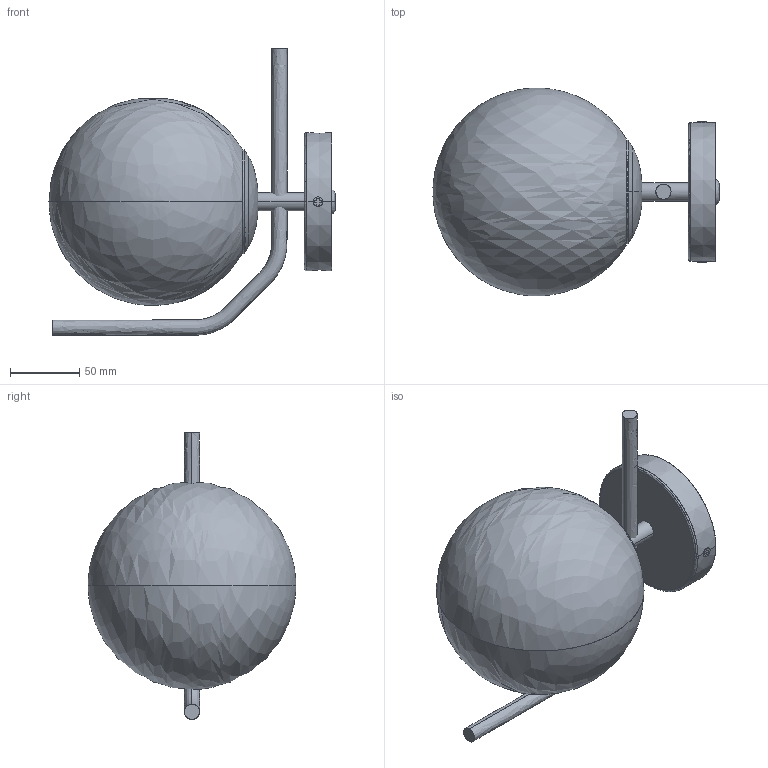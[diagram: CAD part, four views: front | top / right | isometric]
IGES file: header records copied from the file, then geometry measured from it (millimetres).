
Start section: SolidWorks IGES file using analytic representation for surfaces
Global section: file name: C:\Users\ismab\Desktop\ACB\MAUI-A8163-3D - copia\maui-8163-aplique.IGS; native system: SolidWorks 2022; preprocessor: SolidWorks 2022; author: ismab; date: 230131.105431; units: millimetre
Bounding box: 206.48 x 150 x 207 mm (x, y, z)
Surface area: 215039.6 mm2 (no closed solid volume)
Topology: 0 solids, 0 shells, 338 faces, 3452 edges, 3442 vertices
Faces by surface type: bspline 312, revolution 26
